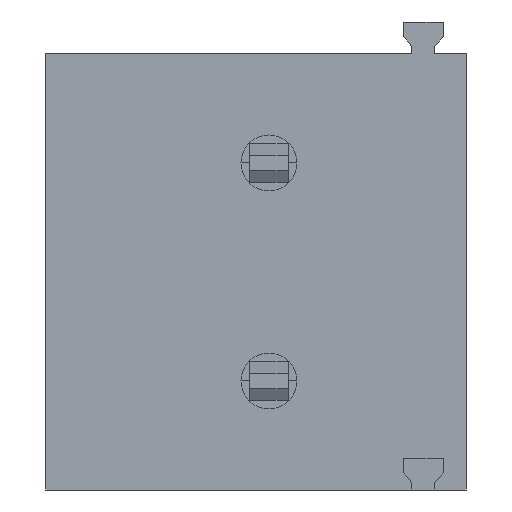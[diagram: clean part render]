
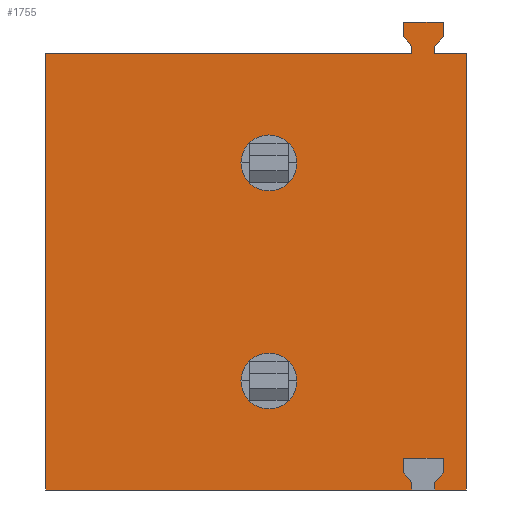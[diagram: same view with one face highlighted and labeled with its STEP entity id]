
A CAD part, front view. The second image highlights one B-rep face of the part: STEP entity #1755.
In plain terms, the highlighted planar face has unit normal (0, -1, 0).
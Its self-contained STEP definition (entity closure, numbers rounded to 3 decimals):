
#23=FACE_BOUND('',#174,.T.);
#24=FACE_BOUND('',#175,.T.);
#32=CIRCLE('',#1868,0.65);
#33=CIRCLE('',#1869,0.65);
#34=CIRCLE('',#1870,0.65);
#75=FACE_OUTER_BOUND('',#173,.T.);
#173=EDGE_LOOP('',(#1084,#1085,#1086,#1087,#1088,#1089,#1090,#1091,#1092,
#1093,#1094,#1095,#1096,#1097,#1098,#1099,#1100,#1101,#1102,#1103));
#174=EDGE_LOOP('',(#1104,#1105));
#175=EDGE_LOOP('',(#1106));
#283=LINE('',#2502,#484);
#284=LINE('',#2504,#485);
#285=LINE('',#2506,#486);
#286=LINE('',#2508,#487);
#287=LINE('',#2510,#488);
#288=LINE('',#2512,#489);
#289=LINE('',#2514,#490);
#290=LINE('',#2516,#491);
#291=LINE('',#2518,#492);
#292=LINE('',#2520,#493);
#293=LINE('',#2522,#494);
#294=LINE('',#2524,#495);
#295=LINE('',#2526,#496);
#296=LINE('',#2528,#497);
#297=LINE('',#2530,#498);
#298=LINE('',#2532,#499);
#299=LINE('',#2534,#500);
#300=LINE('',#2536,#501);
#301=LINE('',#2538,#502);
#302=LINE('',#2539,#503);
#484=VECTOR('',#2016,1.);
#485=VECTOR('',#2017,1.);
#486=VECTOR('',#2018,1.);
#487=VECTOR('',#2019,1.);
#488=VECTOR('',#2020,1.);
#489=VECTOR('',#2021,1.);
#490=VECTOR('',#2022,1.);
#491=VECTOR('',#2023,1.);
#492=VECTOR('',#2024,1.);
#493=VECTOR('',#2025,1.);
#494=VECTOR('',#2026,1.);
#495=VECTOR('',#2027,1.);
#496=VECTOR('',#2028,1.);
#497=VECTOR('',#2029,1.);
#498=VECTOR('',#2030,1.);
#499=VECTOR('',#2031,1.);
#500=VECTOR('',#2032,1.);
#501=VECTOR('',#2033,1.);
#502=VECTOR('',#2034,1.);
#503=VECTOR('',#2035,1.);
#685=VERTEX_POINT('',#2500);
#686=VERTEX_POINT('',#2501);
#687=VERTEX_POINT('',#2503);
#688=VERTEX_POINT('',#2505);
#689=VERTEX_POINT('',#2507);
#690=VERTEX_POINT('',#2509);
#691=VERTEX_POINT('',#2511);
#692=VERTEX_POINT('',#2513);
#693=VERTEX_POINT('',#2515);
#694=VERTEX_POINT('',#2517);
#695=VERTEX_POINT('',#2519);
#696=VERTEX_POINT('',#2521);
#697=VERTEX_POINT('',#2523);
#698=VERTEX_POINT('',#2525);
#699=VERTEX_POINT('',#2527);
#700=VERTEX_POINT('',#2529);
#701=VERTEX_POINT('',#2531);
#702=VERTEX_POINT('',#2533);
#703=VERTEX_POINT('',#2535);
#704=VERTEX_POINT('',#2537);
#705=VERTEX_POINT('',#2540);
#706=VERTEX_POINT('',#2541);
#707=VERTEX_POINT('',#2544);
#841=EDGE_CURVE('',#685,#686,#283,.T.);
#842=EDGE_CURVE('',#686,#687,#284,.T.);
#843=EDGE_CURVE('',#687,#688,#285,.T.);
#844=EDGE_CURVE('',#689,#688,#286,.T.);
#845=EDGE_CURVE('',#690,#689,#287,.T.);
#846=EDGE_CURVE('',#691,#690,#288,.T.);
#847=EDGE_CURVE('',#691,#692,#289,.T.);
#848=EDGE_CURVE('',#693,#692,#290,.T.);
#849=EDGE_CURVE('',#694,#693,#291,.T.);
#850=EDGE_CURVE('',#694,#695,#292,.T.);
#851=EDGE_CURVE('',#696,#695,#293,.T.);
#852=EDGE_CURVE('',#697,#696,#294,.T.);
#853=EDGE_CURVE('',#697,#698,#295,.T.);
#854=EDGE_CURVE('',#698,#699,#296,.T.);
#855=EDGE_CURVE('',#699,#700,#297,.T.);
#856=EDGE_CURVE('',#700,#701,#298,.T.);
#857=EDGE_CURVE('',#701,#702,#299,.T.);
#858=EDGE_CURVE('',#702,#703,#300,.T.);
#859=EDGE_CURVE('',#703,#704,#301,.T.);
#860=EDGE_CURVE('',#685,#704,#302,.T.);
#861=EDGE_CURVE('',#705,#706,#32,.T.);
#862=EDGE_CURVE('',#706,#705,#33,.T.);
#863=EDGE_CURVE('',#707,#707,#34,.T.);
#1084=ORIENTED_EDGE('',*,*,#841,.T.);
#1085=ORIENTED_EDGE('',*,*,#842,.T.);
#1086=ORIENTED_EDGE('',*,*,#843,.T.);
#1087=ORIENTED_EDGE('',*,*,#844,.F.);
#1088=ORIENTED_EDGE('',*,*,#845,.F.);
#1089=ORIENTED_EDGE('',*,*,#846,.F.);
#1090=ORIENTED_EDGE('',*,*,#847,.T.);
#1091=ORIENTED_EDGE('',*,*,#848,.F.);
#1092=ORIENTED_EDGE('',*,*,#849,.F.);
#1093=ORIENTED_EDGE('',*,*,#850,.T.);
#1094=ORIENTED_EDGE('',*,*,#851,.F.);
#1095=ORIENTED_EDGE('',*,*,#852,.F.);
#1096=ORIENTED_EDGE('',*,*,#853,.T.);
#1097=ORIENTED_EDGE('',*,*,#854,.T.);
#1098=ORIENTED_EDGE('',*,*,#855,.T.);
#1099=ORIENTED_EDGE('',*,*,#856,.T.);
#1100=ORIENTED_EDGE('',*,*,#857,.T.);
#1101=ORIENTED_EDGE('',*,*,#858,.T.);
#1102=ORIENTED_EDGE('',*,*,#859,.T.);
#1103=ORIENTED_EDGE('',*,*,#860,.F.);
#1104=ORIENTED_EDGE('',*,*,#861,.F.);
#1105=ORIENTED_EDGE('',*,*,#862,.F.);
#1106=ORIENTED_EDGE('',*,*,#863,.F.);
#1567=PLANE('',#1867);
#1755=ADVANCED_FACE('',(#75,#23,#24),#1567,.T.);
#1867=AXIS2_PLACEMENT_3D('',#2499,#2014,#2015);
#1868=AXIS2_PLACEMENT_3D('',#2542,#2036,#2037);
#1869=AXIS2_PLACEMENT_3D('',#2543,#2038,#2039);
#1870=AXIS2_PLACEMENT_3D('',#2545,#2040,#2041);
#2014=DIRECTION('center_axis',(0.,-1.,0.));
#2015=DIRECTION('ref_axis',(0.,0.,-1.));
#2016=DIRECTION('',(0.,0.,1.));
#2017=DIRECTION('',(-1.,0.,0.));
#2018=DIRECTION('',(0.,0.,1.));
#2019=DIRECTION('',(-0.644,0.,-0.765));
#2020=DIRECTION('',(0.,0.,-1.));
#2021=DIRECTION('',(1.,0.,0.));
#2022=DIRECTION('',(0.,0.,-1.));
#2023=DIRECTION('',(-0.644,0.,0.765));
#2024=DIRECTION('',(0.,0.,1.));
#2025=DIRECTION('',(-1.,0.,0.));
#2026=DIRECTION('',(0.,0.,1.));
#2027=DIRECTION('',(-1.,0.,0.));
#2028=DIRECTION('',(0.,0.,1.));
#2029=DIRECTION('',(-0.644,0.,0.765));
#2030=DIRECTION('',(0.,0.,1.));
#2031=DIRECTION('',(1.,0.,0.));
#2032=DIRECTION('',(0.,0.,-1.));
#2033=DIRECTION('',(-0.644,0.,-0.765));
#2034=DIRECTION('',(0.,0.,-1.));
#2035=DIRECTION('',(-1.,0.,0.));
#2036=DIRECTION('center_axis',(0.,-1.,0.));
#2037=DIRECTION('ref_axis',(1.,0.,0.));
#2038=DIRECTION('center_axis',(0.,-1.,0.));
#2039=DIRECTION('ref_axis',(1.,0.,0.));
#2040=DIRECTION('center_axis',(0.,-1.,0.));
#2041=DIRECTION('ref_axis',(1.,0.,0.));
#2499=CARTESIAN_POINT('Origin',(-6.422,0.,-2.893));
#2500=CARTESIAN_POINT('',(0.536,0.,-10.901));
#2501=CARTESIAN_POINT('',(0.536,0.,-0.741));
#2502=CARTESIAN_POINT('',(0.536,0.,-8.281));
#2503=CARTESIAN_POINT('',(-0.195,0.,-0.741));
#2504=CARTESIAN_POINT('',(-62.994,0.,-0.741));
#2505=CARTESIAN_POINT('',(-0.195,0.,-0.574));
#2506=CARTESIAN_POINT('',(-0.195,0.,-8.281));
#2507=CARTESIAN_POINT('',(0.,0.,-0.342));
#2508=CARTESIAN_POINT('',(-6.676,0.,-8.281));
#2509=CARTESIAN_POINT('',(0.,0.,0.));
#2510=CARTESIAN_POINT('',(0.,0.,-8.281));
#2511=CARTESIAN_POINT('',(-0.928,0.,0.));
#2512=CARTESIAN_POINT('',(-62.994,0.,0.));
#2513=CARTESIAN_POINT('',(-0.928,0.,-0.342));
#2514=CARTESIAN_POINT('',(-0.928,0.,-8.281));
#2515=CARTESIAN_POINT('',(-0.733,0.,-0.574));
#2516=CARTESIAN_POINT('',(5.748,0.,-8.281));
#2517=CARTESIAN_POINT('',(-0.733,0.,-0.741));
#2518=CARTESIAN_POINT('',(-0.733,0.,-8.281));
#2519=CARTESIAN_POINT('',(-9.264,0.,-0.741));
#2520=CARTESIAN_POINT('',(-62.994,0.,-0.741));
#2521=CARTESIAN_POINT('',(-9.264,0.,-10.901));
#2522=CARTESIAN_POINT('',(-9.264,0.,-8.281));
#2523=CARTESIAN_POINT('',(-0.733,0.,-10.901));
#2524=CARTESIAN_POINT('',(-62.994,0.,-10.901));
#2525=CARTESIAN_POINT('',(-0.733,0.,-10.734));
#2526=CARTESIAN_POINT('',(-0.733,0.,-8.281));
#2527=CARTESIAN_POINT('',(-0.928,0.,-10.502));
#2528=CARTESIAN_POINT('',(-2.796,0.,-8.281));
#2529=CARTESIAN_POINT('',(-0.928,0.,-10.16));
#2530=CARTESIAN_POINT('',(-0.928,0.,-8.281));
#2531=CARTESIAN_POINT('',(0.,0.,-10.16));
#2532=CARTESIAN_POINT('',(-62.994,0.,-10.16));
#2533=CARTESIAN_POINT('',(0.,0.,-10.502));
#2534=CARTESIAN_POINT('',(0.,0.,-8.281));
#2535=CARTESIAN_POINT('',(-0.195,0.,-10.734));
#2536=CARTESIAN_POINT('',(1.867,0.,-8.281));
#2537=CARTESIAN_POINT('',(-0.195,0.,-10.901));
#2538=CARTESIAN_POINT('',(-0.195,0.,-8.281));
#2539=CARTESIAN_POINT('',(-62.994,0.,-10.901));
#2540=CARTESIAN_POINT('',(-3.414,0.,-3.281));
#2541=CARTESIAN_POINT('',(-4.714,0.,-3.281));
#2542=CARTESIAN_POINT('Origin',(-4.064,0.,-3.281));
#2543=CARTESIAN_POINT('Origin',(-4.064,0.,-3.281));
#2544=CARTESIAN_POINT('',(-4.714,0.,-8.361));
#2545=CARTESIAN_POINT('Origin',(-4.064,0.,-8.361));
